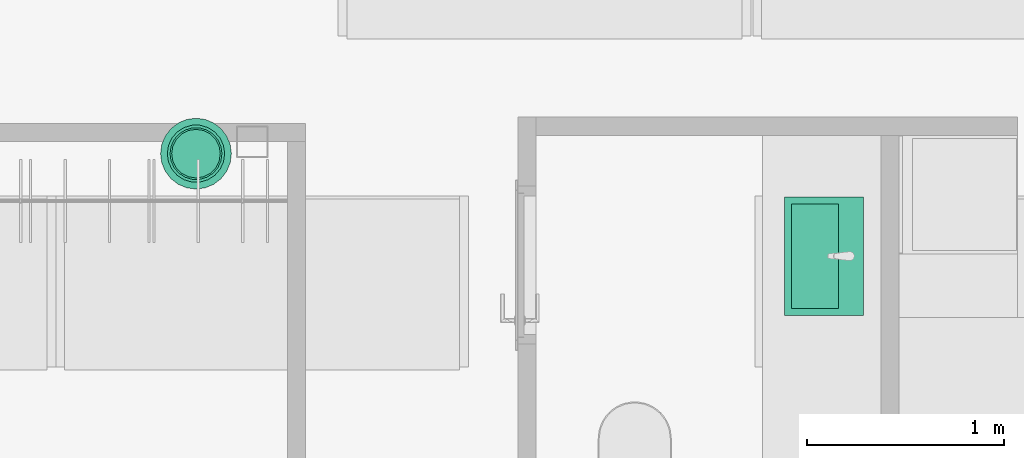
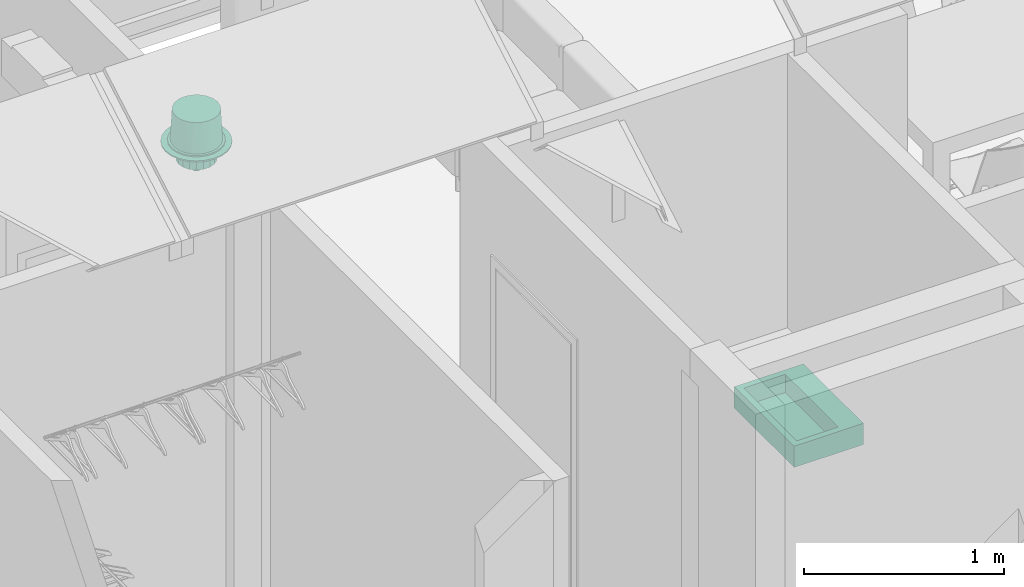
# One storey, part 28 of 57: 2 flow terminals.
"""IFC2X3 building model written with IfcOpenShell, lengths in millimetres."""

from ifc_helpers import new_model, entity, si_unit, converted_unit, direction, frame, origin, place, context, subcontext, project, spatial, faceted_brep, source, transform, mapped, material, material_list, type_object, type_shapes, element, save


model = new_model("IFC2X3")

# Units and contexts
model_context = context("Model", 3, precision=0.01, world=origin(), true_north=direction((6.123233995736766e-17, 1.0)))
plan_context = context("Plan", 3, precision=0.01, world=origin(), true_north=direction((6.123233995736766e-17, 1.0)))
body_context = subcontext(model_context, "Body", "Model", "MODEL_VIEW")
ifc_project = project(units=[si_unit("LENGTHUNIT", "METRE", prefix="MILLI"), converted_unit("PLANEANGLEUNIT", "DEGREE", entity("IfcPlaneAngleMeasure", 0.017453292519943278), si_unit("PLANEANGLEUNIT", "RADIAN"), dimensions=[0, 0, 0, 0, 0, 0, 0]), si_unit("AREAUNIT", "SQUARE_METRE")], contexts=[model_context, plan_context])

# Site, building, storey
site_placement = place(None, origin())
site = spatial("IfcSite", under=ifc_project, at=site_placement, Name="Default", CompositionType="ELEMENT")
building_placement = place(site_placement, origin())
building = spatial("IfcBuilding", under=site, at=building_placement, CompositionType="ELEMENT")
storey_placement = place(building_placement, frame((0.0, 0.0, 12811.000000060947)))
storey = spatial("IfcBuildingStorey", under=building, at=storey_placement, Name="5K", CompositionType="ELEMENT", Elevation=12811.000000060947)

# Flow terminal
ifc_material_1 = material(Name="Metal-WATTS-Cast Iron")
ifc_material_2 = material(Name="Platic-WATTS_Polyethylene")
ifc_material_list = material_list([ifc_material_1, ifc_material_2])
distribution_element_type_1 = type_object("IfcDistributionElementType", Name="Drain-Roof-WATTS-Large_Area-Type_RD-100:2\"", material=ifc_material_list)
shared_shape_1 = source(origin(), body_context, "Body", "Brep", [
    faceted_brep([(-173.21368287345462, 46.41246644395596, 0.0), (-173.21368287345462, 46.41246644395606, -7.924800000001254), (-179.32399999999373, 0.0, -7.924800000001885), (-179.32399999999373, 0.0, 0.0), (-155.29913950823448, 89.66199999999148, 0.0), (-155.29913950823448, 89.66199999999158, -7.924800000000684), (-89.6619999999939, 155.29913950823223, -7.924799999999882), (-126.80121642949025, 126.80121642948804, -7.924800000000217), (-126.80121642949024, 126.80121642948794, 0.0), (-89.66199999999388, 155.29913950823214, 0.0), (-46.41246644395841, 173.21368287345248, -7.9247999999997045), (-46.412466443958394, 173.21368287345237, 0.0), (0.0, 179.32399999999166, -7.924799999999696), (0.0, 179.32399999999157, 0.0), (46.41246644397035, 173.2136828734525, 0.0), (46.41246644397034, 173.21368287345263, -7.924799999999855), (155.2991395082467, 89.66199999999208, -7.924800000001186), (155.2991395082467, 89.66199999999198, 0.0), (173.213682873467, 46.412466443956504, 0.0), (173.213682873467, 46.41246644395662, -7.924800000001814), (126.80121642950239, 126.80121642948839, -7.924800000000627), (126.8012164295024, 126.80121642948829, 0.0), (179.32400000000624, 0.0, 0.0), (179.32400000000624, 0.0, -7.924800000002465), (89.66200000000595, 155.29913950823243, 0.0), (89.66200000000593, 155.29913950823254, -7.924800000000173), (173.21368287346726, -46.41246644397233, 0.0), (173.21368287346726, -46.412466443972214, -7.9248000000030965), (155.29913950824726, -89.66200000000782, 0.0), (155.29913950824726, -89.66200000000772, -7.924800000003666), (89.66200000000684, -155.2991395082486, -7.924800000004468), (126.8012164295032, -126.80121642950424, -7.924800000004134), (126.80121642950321, -126.80121642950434, 0.0), (89.66200000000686, -155.29913950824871, 0.0), (46.41246644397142, -173.213682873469, -7.9248000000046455), (46.41246644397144, -173.2136828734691, 0.0), (0.0, -179.3240000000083, -7.924800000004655), (0.0, -179.32400000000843, 0.0), (-46.41246644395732, -173.2136828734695, 0.0), (-46.412466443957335, -173.2136828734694, -7.924800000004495), (-89.66199999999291, -155.29913950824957, 0.0), (-89.66199999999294, -155.29913950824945, -7.924800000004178), (-155.29913950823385, -89.66200000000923, -7.924800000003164), (-126.80121642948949, -126.80121642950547, -7.9248000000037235), (-126.80121642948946, -126.80121642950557, 0.0), (-155.29913950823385, -89.66200000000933, 0.0), (-173.21368287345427, -46.41246644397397, -7.924800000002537), (-173.21368287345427, -46.412466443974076, 0.0), (157.17520000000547, 0.0, -7.924800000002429), (151.8195849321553, -40.679935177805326, -7.924800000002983), (136.11771604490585, -78.58760000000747, -7.924800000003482), (111.13964975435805, -111.13964975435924, -7.924800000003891), (78.58760000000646, -136.1177160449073, -7.9248000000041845), (40.679935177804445, -151.81958493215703, -7.92480000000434), (0.0, -157.1752000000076, -7.924800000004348), (-40.67993517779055, -151.8195849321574, -7.9248000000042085), (-78.58759999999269, -136.117716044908, -7.9248000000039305), (-111.13964975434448, -111.13964975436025, -7.924800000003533), (-136.11771604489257, -78.58760000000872, -7.924800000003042), (-151.81958493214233, -40.67993517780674, -7.9248000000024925), (-157.17519999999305, 0.0, -7.924800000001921), (-151.81958493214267, 40.67993517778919, -7.924800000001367), (-136.1177160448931, 78.58759999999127, -7.924800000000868), (-111.13964975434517, 111.13964975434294, -7.924800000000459), (-78.58759999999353, 136.11771604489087, -7.924800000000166), (-40.67993517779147, 151.8195849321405, -7.924800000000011), (0.0, 157.17519999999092, -7.924800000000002), (40.67993517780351, 151.81958493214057, -7.9248000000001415), (78.5876000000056, 136.11771604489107, -7.9248000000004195), (111.13964975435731, 111.13964975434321, -7.924800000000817), (136.11771604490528, 78.58759999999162, -7.924800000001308), (151.81958493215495, 40.67993517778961, -7.924800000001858), (-136.11771604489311, 78.5875999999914, -16.66240000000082), (-151.81958493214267, 40.679935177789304, -16.662400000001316), (-157.17519999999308, 0.0, -16.66240000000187), (-40.679935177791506, 151.81958493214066, -16.66239999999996), (-78.58759999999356, 136.11771604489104, -16.662400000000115), (-111.1396497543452, 111.13964975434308, -16.662400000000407), (0.0, 157.17519999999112, -16.662399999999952), (78.58760000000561, 136.11771604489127, -16.662400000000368), (40.67993517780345, 151.8195849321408, -16.66240000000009), (136.11771604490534, 78.58759999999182, -16.66240000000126), (111.13964975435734, 111.13964975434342, -16.662400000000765), (151.819584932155, 40.67993517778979, -16.662400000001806), (157.17520000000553, 0.0, -16.66240000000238), (136.11771604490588, -78.58760000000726, -16.662400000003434), (151.81958493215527, -40.6799351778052, -16.662400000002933), (40.67993517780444, -151.8195849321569, -16.66240000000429), (78.58760000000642, -136.11771604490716, -16.662400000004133), (111.13964975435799, -111.13964975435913, -16.662400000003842), (0.0, -157.1752000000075, -16.6624000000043), (-111.1396497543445, -111.13964975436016, -16.662400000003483), (-78.58759999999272, -136.11771604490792, -16.66240000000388), (-40.67993517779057, -151.81958493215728, -16.66240000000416), (-151.81958493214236, -40.67993517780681, -16.662400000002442), (-136.1177160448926, -78.58760000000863, -16.662400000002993), (103.9876000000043, 0.0, -16.662400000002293), (97.71638037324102, 35.56585385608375, -16.662400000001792), (97.71638037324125, -35.56585385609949, -16.662400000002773), (79.65912313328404, -66.84194084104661, -16.662400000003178), (51.993800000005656, -90.05590327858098, -16.66240000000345), (18.057257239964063, -102.4077946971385, -16.66240000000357), (-18.057257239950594, -102.40779469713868, -16.66240000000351), (-51.993799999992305, -90.05590327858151, -16.662400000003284), (-79.65912313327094, -66.8419408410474, -16.66240000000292), (-97.71638037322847, -35.56585385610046, -16.66240000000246), (-103.98759999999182, 0.0, -16.66240000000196), (-97.71638037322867, 35.56585385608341, -16.662400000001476), (-79.65912313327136, 66.84194084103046, -16.66240000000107), (-51.993799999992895, 90.05590327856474, -16.662400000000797), (-18.05725723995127, 102.40779469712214, -16.66240000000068), (18.057257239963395, 102.40779469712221, -16.662400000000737), (51.99380000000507, 90.05590327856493, -16.662400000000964), (79.65912313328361, 66.84194084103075, -16.66240000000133), (-97.71638037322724, 35.56585385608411, -109.52479999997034), (-103.98759999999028, 0.0, -109.52479999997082), (-18.05725723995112, 102.40779469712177, -109.52479999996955), (-51.99379999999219, 90.0559032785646, -109.52479999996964), (-79.65912313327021, 66.84194084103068, -109.52479999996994), (18.05725723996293, 102.40779469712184, -109.5247999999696), (51.993800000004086, 90.05590327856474, -109.52479999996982), (79.65912313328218, 66.84194084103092, -109.5247999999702), (97.7163803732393, 35.56585385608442, -109.52479999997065), (103.98760000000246, 0.0, -109.52479999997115), (97.71638037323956, -35.56585385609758, -109.52479999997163), (79.65912313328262, -66.84194084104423, -109.52479999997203), (51.99380000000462, -90.05590327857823, -109.52479999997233), (18.05725723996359, -102.40779469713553, -109.52479999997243), (-18.057257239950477, -102.4077946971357, -109.52479999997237), (-51.99379999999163, -90.05590327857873, -109.52479999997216), (-79.65912313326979, -66.84194084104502, -109.52479999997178), (-97.71638037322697, -35.56585385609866, -109.52479999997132), (29.718000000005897, 0.0, -109.52479999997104), (26.880183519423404, 8.733901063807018, -109.52479999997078), (24.042367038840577, 17.467802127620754, -109.52479999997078), (26.88018351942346, -8.733901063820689, -109.52479999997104), (24.04236703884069, -17.467802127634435, -109.52479999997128), (16.61286703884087, -22.865649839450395, -109.52479999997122), (9.183367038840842, -28.26349755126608, -109.52479999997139), (0.0, -28.263497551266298, -109.52479999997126), (-9.183367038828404, -28.26349755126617, -109.52479999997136), (-16.61286703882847, -22.865649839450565, -109.52479999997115), (-24.04236703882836, -17.467802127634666, -109.5247999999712), (-26.8801835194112, -8.733901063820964, -109.52479999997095), (-29.71799999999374, 0.0, -109.52479999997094), (-26.880183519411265, 8.733901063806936, -109.5247999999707), (-24.042367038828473, 17.467802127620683, -109.5247999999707), (-16.61286703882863, 22.865649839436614, -109.52479999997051), (-9.183367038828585, 28.263497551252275, -109.52479999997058), (0.0, 28.263497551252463, -109.52479999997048), (9.183367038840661, 28.263497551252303, -109.52479999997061), (16.61286703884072, 22.865649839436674, -109.52479999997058), (-24.042367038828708, 17.467802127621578, -166.6747999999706), (-27.09249497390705, 8.080473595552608, -166.67479999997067), (-29.717999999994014, 0.0, -166.67479999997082), (9.183367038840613, 28.263497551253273, -166.67479999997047), (24.04236703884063, 17.46780212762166, -166.67479999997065), (16.612867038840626, 22.865649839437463, -166.67479999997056), (-9.183367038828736, 28.263497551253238, -166.67479999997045), (-16.612867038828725, 22.86564983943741, -166.6747999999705), (0.0, 28.263497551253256, -166.67479999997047), (27.09249506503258, 8.08047331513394, -166.67479999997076), (29.718000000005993, 0.0, -166.6747999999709), (24.042367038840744, -17.467802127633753, -166.67479999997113), (9.18336703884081, -28.26349755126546, -166.67479999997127), (16.612867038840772, -22.865649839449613, -166.67479999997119), (26.88018351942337, -8.733901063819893, -166.67479999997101), (-27.092495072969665, -8.080473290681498, -166.67479999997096), (-24.042367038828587, -17.467802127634, -166.67479999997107), (-9.18336703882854, -28.26349755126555, -166.6747999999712), (0.0, -28.263497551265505, -166.6747999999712), (-16.61286703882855, -22.865649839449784, -166.67479999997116), (0.0, 0.0, -166.67479999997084), (0.0, 0.0, 0.0)], [[[0, 1, 2, 3]], [[4, 5, 1, 0]], [[6, 7, 8, 9]], [[4, 8, 7, 5]], [[10, 6, 9, 11]], [[12, 10, 11, 13]], [[13, 14, 15, 12]], [[16, 17, 18, 19]], [[17, 16, 20, 21]], [[19, 18, 22, 23]], [[15, 14, 24, 25]], [[24, 21, 20, 25]], [[26, 27, 23, 22]], [[28, 29, 27, 26]], [[30, 31, 32, 33]], [[28, 32, 31, 29]], [[34, 30, 33, 35]], [[36, 34, 35, 37]], [[38, 39, 36, 37]], [[40, 41, 39, 38]], [[42, 43, 44, 45]], [[40, 44, 43, 41]], [[46, 47, 3, 2]], [[46, 42, 45, 47]], [[23, 48, 19]], [[23, 27, 48]], [[48, 27, 49]], [[29, 49, 27]], [[50, 49, 29]], [[31, 50, 29]], [[50, 31, 51]], [[51, 31, 30]], [[51, 30, 52]], [[52, 30, 34]], [[34, 53, 52]], [[36, 53, 34]], [[53, 36, 54]], [[55, 54, 36]], [[36, 39, 55]], [[55, 39, 56]], [[41, 56, 39]], [[57, 56, 41]], [[57, 41, 43]], [[57, 43, 58]], [[43, 42, 58]], [[59, 58, 42]], [[46, 59, 42]], [[46, 60, 59]], [[2, 60, 46]], [[60, 2, 1]], [[60, 1, 61]], [[5, 61, 1]], [[62, 61, 5]], [[62, 5, 7]], [[7, 63, 62]], [[63, 7, 6]], [[6, 64, 63]], [[64, 6, 10]], [[10, 65, 64]], [[12, 65, 10]], [[12, 66, 65]], [[12, 67, 66]], [[67, 12, 15]], [[68, 67, 15]], [[68, 15, 25]], [[25, 69, 68]], [[20, 69, 25]], [[69, 20, 70]], [[16, 70, 20]], [[16, 71, 70]], [[71, 16, 19]], [[19, 48, 71]], [[61, 62, 72, 73]], [[60, 61, 73, 74]], [[64, 65, 75, 76]], [[63, 64, 76, 77]], [[62, 63, 77, 72]], [[78, 75, 65, 66]], [[79, 80, 67, 68]], [[80, 78, 66, 67]], [[70, 81, 82, 69]], [[79, 68, 69, 82]], [[81, 70, 71, 83]], [[84, 83, 71, 48]], [[49, 50, 85, 86]], [[48, 49, 86, 84]], [[52, 53, 87, 88]], [[51, 52, 88, 89]], [[50, 51, 89, 85]], [[90, 87, 53, 54]], [[56, 57, 91, 92]], [[55, 56, 92, 93]], [[59, 60, 74, 94]], [[58, 59, 94, 95]], [[57, 58, 95, 91]], [[55, 93, 90, 54]], [[83, 84, 96]], [[96, 97, 83]], [[83, 97, 81]], [[96, 84, 86]], [[98, 96, 86]], [[98, 86, 85]], [[99, 98, 85]], [[85, 89, 99]], [[89, 100, 99]], [[89, 88, 100]], [[87, 100, 88]], [[100, 87, 101]], [[101, 87, 90]], [[90, 102, 101]], [[90, 93, 102]], [[102, 93, 103]], [[92, 103, 93]], [[103, 92, 91]], [[103, 91, 104]], [[104, 91, 95]], [[105, 104, 95]], [[94, 105, 95]], [[106, 105, 94]], [[94, 74, 106]], [[73, 106, 74]], [[107, 106, 73]], [[107, 73, 72]], [[108, 107, 72]], [[108, 72, 77]], [[77, 109, 108]], [[109, 77, 76]], [[109, 76, 75]], [[75, 110, 109]], [[78, 110, 75]], [[110, 78, 111]], [[80, 111, 78]], [[112, 111, 80]], [[112, 80, 79]], [[82, 112, 79]], [[82, 81, 113]], [[113, 112, 82]], [[81, 97, 113]], [[114, 115, 106, 107]], [[109, 110, 116, 117]], [[107, 108, 118, 114]], [[109, 117, 118, 108]], [[110, 111, 119, 116]], [[119, 111, 112, 120]], [[121, 113, 97, 122]], [[112, 113, 121, 120]], [[122, 97, 96, 123]], [[124, 123, 96, 98]], [[125, 99, 100, 126]], [[98, 99, 125, 124]], [[126, 100, 101, 127]], [[101, 102, 128, 127]], [[128, 102, 103, 129]], [[130, 104, 105, 131]], [[103, 104, 130, 129]], [[131, 105, 106, 115]], [[122, 123, 132]], [[122, 132, 133]], [[122, 133, 134]], [[122, 134, 121]], [[123, 124, 132]], [[124, 135, 132]], [[124, 136, 135]], [[136, 124, 125]], [[136, 125, 126]], [[126, 137, 136]], [[126, 138, 137]], [[138, 126, 127]], [[127, 128, 138]], [[128, 139, 138]], [[128, 140, 139]], [[140, 128, 129]], [[129, 141, 140]], [[129, 142, 141]], [[129, 130, 142]], [[131, 142, 130]], [[131, 143, 142]], [[131, 144, 143]], [[115, 144, 131]], [[115, 114, 144]], [[114, 145, 144]], [[114, 146, 145]], [[114, 118, 146]], [[118, 117, 146]], [[117, 147, 146]], [[117, 148, 147]], [[116, 148, 117]], [[116, 149, 148]], [[116, 150, 149]], [[150, 116, 119]], [[150, 119, 120]], [[120, 134, 151]], [[121, 134, 120]], [[120, 151, 150]], [[152, 153, 154, 144, 145, 146]], [[155, 150, 151, 134, 156, 157]], [[148, 158, 159, 152, 146, 147]], [[160, 158, 148, 149, 150, 155]], [[161, 156, 134, 133, 132, 162]], [[163, 136, 137, 138, 164, 165]], [[166, 162, 132, 135, 136, 163]], [[144, 154, 167, 168, 142, 143]], [[164, 138, 139, 140, 169, 170]], [[171, 169, 140, 141, 142, 168]], [[172, 155, 157]], [[172, 157, 156]], [[172, 156, 161]], [[172, 161, 162]], [[172, 162, 166]], [[172, 160, 155]], [[172, 158, 160]], [[172, 159, 158]], [[172, 152, 159]], [[172, 153, 152]], [[172, 154, 153]], [[172, 166, 163]], [[172, 163, 165]], [[172, 165, 164]], [[172, 164, 170]], [[172, 167, 154]], [[172, 168, 167]], [[172, 171, 168]], [[172, 169, 171]], [[172, 170, 169]], [[18, 173, 22]], [[17, 173, 18]], [[21, 173, 17]], [[24, 173, 21]], [[24, 14, 173]], [[14, 13, 173]], [[13, 11, 173]], [[9, 173, 11]], [[8, 173, 9]], [[4, 173, 8]], [[4, 0, 173]], [[0, 3, 173]], [[173, 3, 47]], [[47, 45, 173]], [[44, 173, 45]], [[44, 40, 173]], [[40, 38, 173]], [[37, 173, 38]], [[173, 37, 35]], [[35, 33, 173]], [[32, 173, 33]], [[173, 32, 28]], [[173, 28, 26]], [[173, 26, 22]]]),
    faceted_brep([(95.14340631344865, 109.8013441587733, 0.0), (122.22404327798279, 78.54862308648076, 0.0), (0.0, 0.0, 0.0), (60.35481640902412, 132.158613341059, 0.0), (139.40281515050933, 40.9323597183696, 0.0), (145.28800000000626, 0.0, 0.0), (139.40281515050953, -40.93235971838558, 0.0), (122.22404327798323, -78.54862308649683, 0.0), (95.1434063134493, -109.80134415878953, 0.0), (60.35481640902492, -132.15861334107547, 0.0), (20.676638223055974, -143.80917764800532, 0.0), (-20.6766382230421, -143.80917764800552, 0.0), (-60.354816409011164, -132.15861334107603, 0.0), (-95.14340631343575, -109.80134415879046, 0.0), (-122.22404327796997, -78.54862308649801, 0.0), (-139.40281515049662, -40.93235971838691, 0.0), (-145.28799999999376, 0.0, 0.0), (-139.40281515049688, 40.93235971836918, 0.0), (-122.22404327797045, 78.54862308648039, 0.0), (-95.14340631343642, 109.801344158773, 0.0), (-60.35481640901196, 132.1586133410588, 0.0), (-20.67663822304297, 143.80917764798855, 0.0), (20.676638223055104, 143.8091776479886, 0.0), (117.16065224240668, 38.06780353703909, 193.64960000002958), (0.0, 0.0, 193.64960000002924), (123.19000000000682, 0.0, 193.64960000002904), (99.66280353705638, 72.40926522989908, 193.6496000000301), (72.40926522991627, 99.66280353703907, 193.6496000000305), (38.0678035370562, 117.16065224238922, 193.6496000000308), (0.0, 123.18999999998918, 193.64960000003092), (-38.06780353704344, 117.16065224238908, 193.64960000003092), (-72.40926522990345, 99.66280353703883, 193.64960000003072), (-99.66280353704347, 72.40926522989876, 193.64960000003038), (-117.1606522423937, 38.06780353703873, 193.64960000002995), (-123.18999999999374, 0.0, 193.64960000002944), (-117.16065224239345, -38.06780353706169, 193.6496000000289), (-99.66280353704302, -72.40926522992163, 193.64960000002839), (-72.40926522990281, -99.66280353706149, 193.649600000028), (-38.06780353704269, -117.16065224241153, 193.64960000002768), (0.0, -123.1900000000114, 193.64960000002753), (38.06780353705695, -117.16065224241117, 193.64960000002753), (72.40926522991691, -99.66280353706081, 193.64960000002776), (99.66280353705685, -72.40926522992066, 193.64960000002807), (117.16065224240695, -38.06780353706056, 193.64960000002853), (-126.24240952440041, 37.06811596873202, 7.924800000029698), (-86.16133648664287, 99.43548299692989, 7.924800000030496), (-54.65698409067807, 119.68210089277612, 7.924800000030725), (-110.68540982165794, 71.1331936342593, 7.924800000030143), (-131.57199999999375, 0.0, 7.924800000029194), (-18.724647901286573, 130.23278675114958, 7.924800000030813), (18.724647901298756, 130.2327867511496, 7.924800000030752), (54.656984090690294, 119.68210089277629, 7.924800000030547), (110.68540982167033, 71.13319363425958, 7.924800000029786), (86.16133648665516, 99.43548299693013, 7.924800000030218), (126.24240952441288, 37.06811596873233, 7.924800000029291), (131.5720000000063, 0.0, 7.924800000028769), (126.24240952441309, -37.068115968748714, 7.924800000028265), (86.16133648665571, -99.43548299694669, 7.924800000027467), (110.6854098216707, -71.13319363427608, 7.924800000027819), (54.65698409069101, -119.68210089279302, 7.924800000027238), (18.72464790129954, -130.23278675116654, 7.92480000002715), (-18.724647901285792, -130.2327867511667, 7.924800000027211), (-54.656984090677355, -119.68210089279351, 7.924800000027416), (-110.68540982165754, -71.13319363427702, 7.924800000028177), (-86.16133648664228, -99.43548299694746, 7.924800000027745), (-126.24240952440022, -37.06811596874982, 7.9248000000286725), (139.40281515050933, 40.93235971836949, 7.924800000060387), (145.28800000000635, 0.0, 7.924800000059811), (122.2240432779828, 78.54862308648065, 7.924800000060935), (95.14340631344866, 109.80134415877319, 7.924800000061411), (60.35481640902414, 132.1586133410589, 7.924800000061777), (20.676638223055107, 143.8091776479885, 7.924800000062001), (-20.676638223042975, 143.80917764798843, 7.924800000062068), (-60.35481640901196, 132.1586133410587, 7.924800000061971), (-95.14340631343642, 109.80134415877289, 7.924800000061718), (-122.22404327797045, 78.54862308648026, 7.92480000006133), (-139.40281515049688, 40.93235971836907, 7.924800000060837), (-145.28799999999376, 0.0, 7.924800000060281), (-139.40281515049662, -40.932359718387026, 7.924800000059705), (-122.22404327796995, -78.54862308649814, 7.924800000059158), (-95.14340631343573, -109.80134415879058, 7.924800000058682), (-60.354816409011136, -132.15861334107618, 7.924800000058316), (-20.676638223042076, -143.80917764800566, 7.924800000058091), (20.676638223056, -143.80917764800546, 7.924800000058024), (60.354816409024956, -132.1586133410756, 7.924800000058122), (95.14340631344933, -109.80134415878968, 7.924800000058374), (122.22404327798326, -78.54862308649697, 7.924800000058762), (139.40281515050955, -40.9323597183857, 7.924800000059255)], [[[0, 1, 2]], [[0, 2, 3]], [[4, 2, 1]], [[2, 4, 5]], [[5, 6, 2]], [[2, 6, 7]], [[2, 7, 8]], [[2, 8, 9]], [[9, 10, 2]], [[11, 2, 10]], [[2, 11, 12]], [[2, 12, 13]], [[14, 2, 13]], [[2, 14, 15]], [[15, 16, 2]], [[2, 16, 17]], [[2, 17, 18]], [[18, 19, 2]], [[19, 20, 2]], [[21, 2, 20]], [[2, 21, 22]], [[22, 3, 2]], [[23, 24, 25]], [[26, 24, 23]], [[26, 27, 24]], [[28, 24, 27]], [[28, 29, 24]], [[24, 29, 30]], [[30, 31, 24]], [[24, 31, 32]], [[32, 33, 24]], [[33, 34, 24]], [[34, 35, 24]], [[36, 24, 35]], [[36, 37, 24]], [[37, 38, 24]], [[39, 24, 38]], [[24, 39, 40]], [[40, 41, 24]], [[41, 42, 24]], [[42, 43, 24]], [[24, 43, 25]], [[44, 34, 33]], [[45, 32, 31]], [[46, 31, 30]], [[47, 33, 32]], [[34, 44, 48]], [[44, 33, 47]], [[32, 45, 47]], [[31, 46, 45]], [[30, 49, 46]], [[30, 29, 49]], [[50, 29, 28]], [[27, 51, 28]], [[52, 26, 23]], [[27, 26, 53]], [[54, 23, 25]], [[28, 51, 50]], [[27, 53, 51]], [[52, 53, 26]], [[23, 54, 52]], [[25, 55, 54]], [[29, 50, 49]], [[56, 25, 43]], [[57, 42, 41]], [[43, 42, 58]], [[59, 41, 40]], [[25, 56, 55]], [[43, 58, 56]], [[57, 58, 42]], [[41, 59, 57]], [[40, 60, 59]], [[40, 39, 60]], [[61, 39, 38]], [[37, 62, 38]], [[63, 36, 35]], [[37, 36, 64]], [[65, 35, 34]], [[38, 62, 61]], [[37, 64, 62]], [[63, 64, 36]], [[35, 65, 63]], [[34, 48, 65]], [[39, 61, 60]], [[66, 55, 67]], [[54, 55, 66]], [[66, 68, 54]], [[68, 52, 54]], [[69, 52, 68]], [[52, 69, 53]], [[70, 53, 69]], [[51, 53, 70]], [[70, 71, 51]], [[71, 50, 51]], [[49, 50, 71]], [[71, 72, 49]], [[72, 46, 49]], [[73, 46, 72]], [[46, 73, 45]], [[74, 45, 73]], [[47, 45, 74]], [[74, 75, 47]], [[75, 44, 47]], [[76, 44, 75]], [[44, 76, 48]], [[76, 77, 48]], [[77, 78, 48]], [[65, 48, 78]], [[78, 79, 65]], [[65, 79, 63]], [[80, 63, 79]], [[63, 80, 64]], [[64, 80, 81]], [[62, 64, 81]], [[81, 82, 62]], [[62, 82, 61]], [[83, 61, 82]], [[61, 83, 60]], [[60, 83, 59]], [[84, 59, 83]], [[59, 84, 57]], [[57, 84, 85]], [[58, 57, 85]], [[85, 86, 58]], [[58, 86, 56]], [[87, 56, 86]], [[55, 87, 67]], [[56, 87, 55]], [[76, 17, 16, 77]], [[75, 18, 17, 76]], [[19, 74, 73, 20]], [[75, 74, 19, 18]], [[20, 73, 72, 21]], [[72, 71, 22, 21]], [[70, 69, 0, 3]], [[71, 70, 3, 22]], [[4, 1, 68, 66]], [[69, 68, 1, 0]], [[67, 5, 4, 66]], [[87, 6, 5, 67]], [[86, 7, 6, 87]], [[8, 85, 84, 9]], [[86, 85, 8, 7]], [[9, 84, 83, 10]], [[83, 82, 11, 10]], [[81, 12, 11, 82]], [[80, 13, 12, 81]], [[14, 79, 78, 15]], [[80, 79, 14, 13]], [[15, 78, 77, 16]]]),
])
type_shapes(distribution_element_type_1, [shared_shape_1])
flow_terminal_1_placement = place(storey_placement, frame((4889.768158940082, 10640.0, 3314.999999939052)))
element("IfcFlowTerminal", 1, at=flow_terminal_1_placement, inside=storey, type_object=distribution_element_type_1, material=ifc_material_list, Name="Drain-Roof-WATTS-Large_Area-Type_RD-100:2\"", ObjectType="Drain-Roof-WATTS-Large_Area-Type_RD-100:2\"", context=body_context, shape_type="MappedRepresentation", body=[
    mapped(shared_shape_1, transform((0.0, 0.0, 0.0), scale=1.0)),
])

# Space
space_placement = place(storey_placement, origin())
space = spatial("IfcSpace", under=storey, at=space_placement, Name="5-12.5", CompositionType="ELEMENT", InteriorOrExteriorSpace="INTERNAL")

# Flow terminal
ifc_material_3 = material(Name="<Unnamed>")
distribution_element_type_2 = type_object("IfcDistributionElementType", Name="HR_Plumbing-fixtures_Sink_Generic_Bathroom_v1:600 x 400 mm", material=ifc_material_3)
shared_shape_2 = source(origin(), body_context, "Body", "Brep", [
    faceted_brep([(300.0, 0.0, 0.0), (-300.0, 0.0, 0.0), (-300.0, -400.0, 0.0), (300.0, -400.0, 0.0), (-265.0, -125.0, 0.0), (265.0, -125.0, 0.0), (265.0, -365.0, 0.0), (-265.0, -365.0, 0.0), (300.0, 0.0, -130.0), (300.0, -400.0, -130.0), (-300.0, -400.0, -130.0), (-300.0, 0.0, -130.0), (265.0, -125.0, -110.0), (-265.0, -125.0, -110.0), (-265.0, -365.0, -110.0), (265.0, -365.0, -110.0)], [[[0, 1, 2, 3], [4, 5, 6, 7]], [[8, 9, 10, 11]], [[1, 0, 8, 11]], [[2, 1, 11, 10]], [[3, 2, 10, 9]], [[0, 3, 9, 8]], [[12, 13, 14, 15]], [[13, 12, 5, 4]], [[14, 13, 4, 7]], [[15, 14, 7, 6]], [[12, 15, 6, 5]]]),
])
type_shapes(distribution_element_type_2, [shared_shape_2])
flow_terminal_2_placement = place(space_placement, frame((8270.0, 10121.0, 900.0), z_axis=(0.0, 0.0, 1.0), x_axis=(0.0, -1.0, 0.0)))
element("IfcFlowTerminal", 2, at=flow_terminal_2_placement, inside=space, type_object=distribution_element_type_2, material=ifc_material_3, Name="HR_Plumbing-fixtures_Sink_Generic_Bathroom_v1:600 x 400 mm", ObjectType="HR_Plumbing-fixtures_Sink_Generic_Bathroom_v1:600 x 400 mm", context=body_context, shape_type="MappedRepresentation", body=[
    mapped(shared_shape_2, transform((0.0, 0.0, 0.0), scale=1.0)),
])

save(model, "model.ifc")
